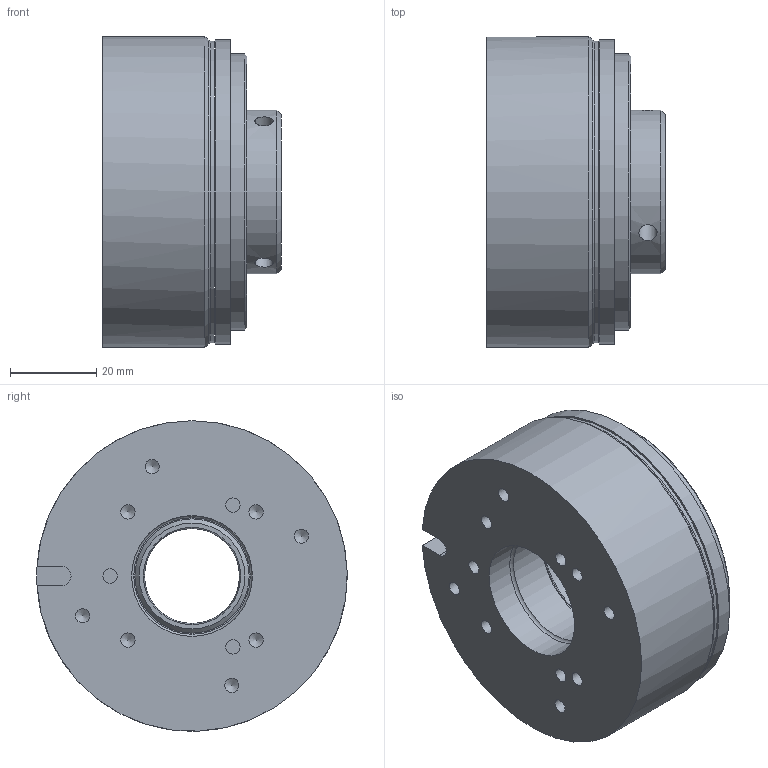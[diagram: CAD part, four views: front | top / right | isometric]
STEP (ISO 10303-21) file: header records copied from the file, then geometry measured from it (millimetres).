
FILE_DESCRIPTION (( 'STEP AP203' ), '1' );
FILE_NAME ('86_61107K00-0015_Idx_g.STEP', '2022-02-15T13:49:40', ( '' ), ( '' ), 'SwSTEP 2.0', 'SolidWorks 2018', '' );
FILE_SCHEMA (( 'CONFIG_CONTROL_DESIGN' ));
Length unit declared in the file: millimetre
Products named in the file (1): 86_61107K00-0015_Idx_g
Bounding box: 41.4 x 72 x 72 mm (x, y, z)
Volume: 115399.5 mm3; surface area: 26889.7 mm2
Topology: 2 solids, 2 shells, 58 faces, 120 edges, 73 vertices
Faces by surface type: cylinder 26, cone 15, plane 14, torus 3
Full cylindrical faces by diameter (mm): 3.3 x11, 4.2 x3, 22 x1, 26.5 x1, 27 x1, 28 x1, 29.5 x1, 38 x1, 55.5 x1, 64 x1, 70 x1, 70.5 x1, 72 x1
Entity records: 1641 total; most frequent: CARTESIAN_POINT 515, DIRECTION 234, ORIENTED_EDGE 136, EDGE_LOOP 118, AXIS2_PLACEMENT_3D 113, FACE_OUTER_BOUND 86, EDGE_CURVE 68, VERTEX_POINT 64
